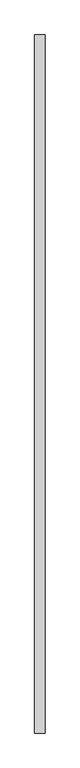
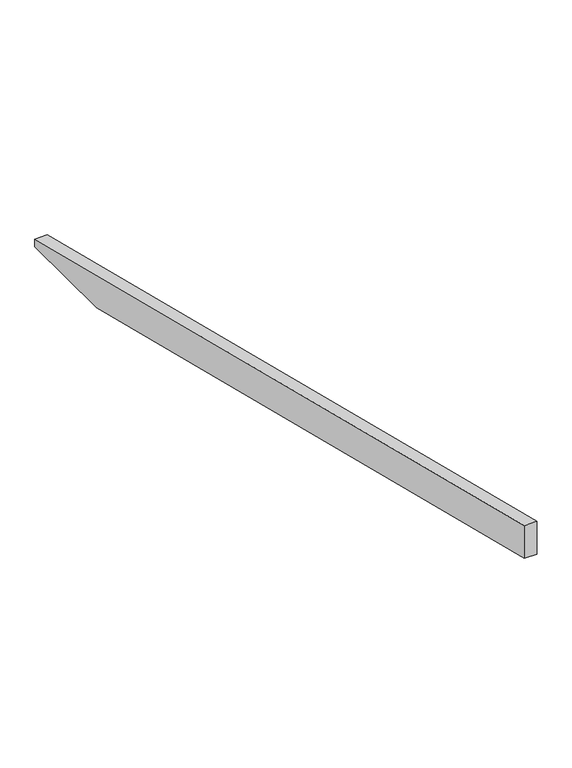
"""IFC4 building model written with IfcOpenShell, lengths in millimetres: proxy geometry, Modelos genéricos 73 : Modelos genéricos 12."""

from ifc_helpers import new_model, si_unit, frame, origin, place, context, project, spatial, polyline, outline, extrude, source, transform, mapped, element, save


def generic_models_c166742f(model_context):
    return source(origin(), model_context, "Body", "SweptSolid", [
        extrude(outline(polyline([(6078.6238165, 3197.4798401), (6078.6238165, 3160.0), (5567.5767654, 3160.0), (2018.6238165, 4044.8533509), (2018.6238165, 4209.7515316), (6078.6238165, 3197.4798401)])), frame((-1726.5527533, 0.0, 0.0), z_axis=(1.0, 0.0, 0.0), x_axis=(0.0, 1.0, 0.0)), (0.0, 0.0, 1.0), 60.0),
    ])


if __name__ == "__main__":
    model = new_model("IFC4")
    model_context = context("Model", 3, world=origin())
    ifc_project = project(units=[si_unit("LENGTHUNIT", "METRE", prefix="MILLI")], contexts=[model_context])
    site = spatial("IfcSite", under=ifc_project)
    building = spatial("IfcBuilding", under=site)
    placement = place(None, origin())
    generic_models_shape = generic_models_c166742f(model_context)
    element("IfcBuildingElementProxy", 1, Name="Modelos genéricos 73 : Modelos genéricos 12", ObjectType="Modelos genéricos 73 : Modelos genéricos 12", at=placement, inside=building, context=model_context, shape_type="MappedRepresentation", body=[
        mapped(generic_models_shape, transform((0.0, 0.0, 0.0), x_axis=(1.0, 0.0, 0.0), y_axis=(0.0, 1.0, 0.0), z_axis=(0.0, 0.0, 1.0))),
    ])
    save(model, "model.ifc")
